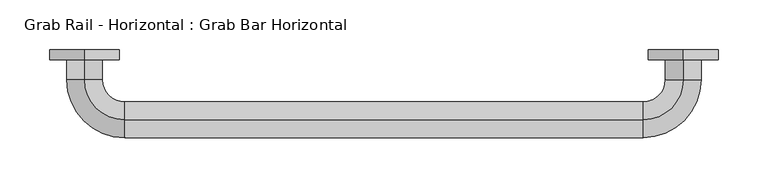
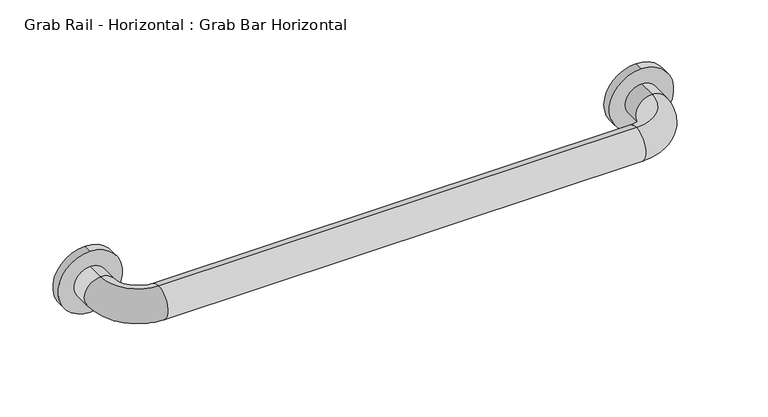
"""IFC4 building model written with IfcOpenShell, lengths in millimetres: flow terminal geometry, Grab Rail - Horizontal : Grab Bar Horizontal."""

from ifc_helpers import new_model, si_unit, point, frame, frame_2d, origin, place, context, project, spatial, circle_curve, ellipse_curve, trimmed, segment, composite_curve, outline, extrude, source, transform, mapped, element, save
from ifc_brep_helpers import plane_surface, cylinder_surface, revolved_surface, advanced_brep


def grab_rail_horizontal_grab_bar_horizontal_3488bc9b(model_context):
    return source(origin(), model_context, "Body", "SolidModel", [
        extrude(outline(composite_curve([segment(trimmed(circle_curve(frame_2d((680.0, -555.7956665)), 35.0), [point((645.0, -555.7956665))], [point((715.0, -555.7956665))], False, "CARTESIAN"), True, "CONTINUOUS"), segment(trimmed(circle_curve(frame_2d((680.0, -555.7956665)), 35.0), [point((715.0, -555.7956665))], [point((645.0, -555.7956665))], False, "CARTESIAN"), True, "CONTINUOUS")], self_intersect=False)), frame((0.0, -10.0, 0.0), z_axis=(0.0, 1.0, 0.0), x_axis=(0.0, 0.0, 1.0)), (0.0, 0.0, 1.0), 10.0),
        extrude(outline(composite_curve([segment(trimmed(circle_curve(frame_2d((680.0, -1155.7956665)), 35.0), [point((645.0, -1155.7956665))], [point((715.0, -1155.7956665))], False, "CARTESIAN"), True, "CONTINUOUS"), segment(trimmed(circle_curve(frame_2d((680.0, -1155.7956665)), 35.0), [point((715.0, -1155.7956665))], [point((645.0, -1155.7956665))], False, "CARTESIAN"), True, "CONTINUOUS")], self_intersect=False)), frame((0.0, -10.0, 0.0), z_axis=(0.0, 1.0, 0.0), x_axis=(0.0, 0.0, 1.0)), (0.0, 0.0, 1.0), 10.0),
        advanced_brep(
        [(-555.7956665, -10.0, 698.0), (-555.7956665, -10.0, 662.0), (-555.7956665, -30.0, 662.0), (-555.7956665, -30.0, 698.0), (-595.7956665, -70.0, 662.0), (-595.7956665, -70.0, 698.0), (-1115.7956665, -70.0, 662.0), (-1115.7956665, -70.0, 698.0), (-1155.7956665, -30.0, 662.0), (-1155.7956665, -30.0, 698.0), (-1155.7956665, -10.0, 698.0), (-1155.7956665, -10.0, 662.0)],
        [
            (0, 1, circle_curve(frame((-555.7956665, -10.0, 680.0), z_axis=(0.0, 1.0, 0.0), x_axis=(0.0, 0.0, -1.0)), 18.0)),
            (1, 0, circle_curve(frame((-555.7956665, -10.0, 680.0), z_axis=(0.0, 1.0, 0.0), x_axis=(0.0, 0.0, -1.0)), 18.0)),
            (1, 2),
            (2, 3, circle_curve(frame((-555.7956665, -30.0, 680.0), z_axis=(0.0, 1.0, 0.0), x_axis=(0.0, 0.0, -1.0)), 18.0)),
            (3, 0),
            (3, 2, circle_curve(frame((-555.7956665, -30.0, 680.0), z_axis=(0.0, 1.0, 0.0), x_axis=(0.0, 0.0, -1.0)), 18.0)),
            (4, 5, circle_curve(frame((-595.7956665, -70.0, 680.0), z_axis=(1.0, 0.0, 0.0), x_axis=(0.0, 0.0, -1.0)), 18.0)),
            (5, 3, circle_curve(frame((-595.7956665, -30.0, 698.0), z_axis=(0.0, 0.0, 1.0), x_axis=(1.0, 0.0, 0.0)), 40.0)),
            (2, 4, circle_curve(frame((-595.7956665, -30.0, 662.0), z_axis=(0.0, 0.0, -1.0), x_axis=(1.0, 0.0, 0.0)), 40.0)),
            (5, 4, circle_curve(frame((-595.7956665, -70.0, 680.0), z_axis=(1.0, 0.0, 0.0), x_axis=(0.0, 0.0, -1.0)), 18.0)),
            (4, 6),
            (6, 7, circle_curve(frame((-1115.7956665, -70.0, 680.0), z_axis=(1.0, 0.0, 0.0), x_axis=(0.0, 0.0, -1.0)), 18.0)),
            (7, 5),
            (7, 6, circle_curve(frame((-1115.7956665, -70.0, 680.0), z_axis=(1.0, 0.0, 0.0), x_axis=(0.0, 0.0, -1.0)), 18.0)),
            (8, 9, circle_curve(frame((-1155.7956665, -30.0, 680.0), z_axis=(0.0, -1.0, 0.0), x_axis=(0.0, 0.0, -1.0)), 18.0)),
            (9, 7, circle_curve(frame((-1115.7956665, -30.0, 698.0), z_axis=(0.0, 0.0, 1.0), x_axis=(0.0, -1.0, 0.0)), 40.0)),
            (6, 8, circle_curve(frame((-1115.7956665, -30.0, 662.0), z_axis=(0.0, 0.0, -1.0), x_axis=(0.0, -1.0, 0.0)), 40.0)),
            (9, 8, circle_curve(frame((-1155.7956665, -30.0, 680.0), z_axis=(0.0, -1.0, 0.0), x_axis=(0.0, 0.0, -1.0)), 18.0)),
            (10, 11, circle_curve(frame((-1155.7956665, -10.0, 680.0), z_axis=(0.0, 1.0, 0.0), x_axis=(0.0, 0.0, -1.0)), 18.0)),
            (11, 10, circle_curve(frame((-1155.7956665, -10.0, 680.0), z_axis=(0.0, 1.0, 0.0), x_axis=(0.0, 0.0, -1.0)), 18.0)),
            (8, 11),
            (10, 9),
        ],
        [
            plane_surface(frame((-555.7956665, -10.0, 680.0), z_axis=(0.0, 1.0, 0.0), x_axis=(0.0, 0.0, 1.0))),
            cylinder_surface(frame((-555.7956665, -10.0, 680.0), z_axis=(0.0, 1.0, 0.0), x_axis=(0.0, 0.0, -1.0)), 18.0),
            revolved_surface(trimmed(ellipse_curve(frame((-555.7956665, -30.0, 680.0), z_axis=(0.0, -1.0, 0.0), x_axis=(0.0, 0.0, -1.0)), 18.0, 18.0), [point((-555.7956665, -30.0, 698.0))], [point((-555.7956665, -30.0, 662.0))], True, "CARTESIAN"), (-595.7956665, -30.0, 680.0), (0.0, 0.0, 1.0)),
            revolved_surface(trimmed(ellipse_curve(frame((-555.7956665, -30.0, 680.0), z_axis=(0.0, -1.0, 0.0), x_axis=(0.0, 0.0, -1.0)), 18.0, 18.0), [point((-555.7956665, -30.0, 662.0))], [point((-555.7956665, -30.0, 698.0))], True, "CARTESIAN"), (-595.7956665, -30.0, 680.0), (0.0, 0.0, 1.0)),
            cylinder_surface(frame((-595.7956665, -70.0, 680.0), z_axis=(1.0, 0.0, 0.0), x_axis=(0.0, 0.0, -1.0)), 18.0),
            revolved_surface(trimmed(ellipse_curve(frame((-1115.7956665, -70.0, 680.0), z_axis=(-1.0, 0.0, 0.0), x_axis=(0.0, 0.0, -1.0)), 18.0, 18.0), [point((-1115.7956665, -70.0, 698.0))], [point((-1115.7956665, -70.0, 662.0))], True, "CARTESIAN"), (-1115.7956665, -30.0, 680.0), (0.0, 0.0, 1.0)),
            revolved_surface(trimmed(ellipse_curve(frame((-1115.7956665, -70.0, 680.0), z_axis=(-1.0, 0.0, 0.0), x_axis=(0.0, 0.0, -1.0)), 18.0, 18.0), [point((-1115.7956665, -70.0, 662.0))], [point((-1115.7956665, -70.0, 698.0))], True, "CARTESIAN"), (-1115.7956665, -30.0, 680.0), (0.0, 0.0, 1.0)),
            plane_surface(frame((-1155.7956665, -10.0, 680.0), z_axis=(0.0, 1.0, 0.0), x_axis=(0.0, 0.0, 1.0))),
            cylinder_surface(frame((-1155.7956665, -30.0, 680.0), z_axis=(0.0, -1.0, 0.0), x_axis=(0.0, 0.0, -1.0)), 18.0),
        ],
        [
            (0, [[1, 2]]),
            (1, [[3, 4, 5, -2]]),
            (1, [[-5, 6, -3, -1]]),
            (2, [[7, 8, -4, 9]]),
            (3, [[10, -9, -6, -8]]),
            (4, [[11, 12, 13, -7]]),
            (4, [[-13, 14, -11, -10]]),
            (5, [[15, 16, -12, 17]]),
            (6, [[18, -17, -14, -16]]),
            (7, [[19, 20]]),
            (8, [[21, -19, 22, -15]]),
            (8, [[-22, -20, -21, -18]]),
        ],
    ),
    ])


if __name__ == "__main__":
    model = new_model("IFC4")
    model_context = context("Model", 3, world=origin())
    ifc_project = project(units=[si_unit("LENGTHUNIT", "METRE", prefix="MILLI")], contexts=[model_context])
    site = spatial("IfcSite", under=ifc_project)
    building = spatial("IfcBuilding", under=site)
    placement = place(None, origin())
    grab_rail_horizontal_grab_bar_horizontal_shape = grab_rail_horizontal_grab_bar_horizontal_3488bc9b(model_context)
    element("IfcFlowTerminal", 1, ObjectType="Grab Rail - Horizontal : Grab Bar Horizontal", at=placement, inside=building, context=model_context, shape_type="MappedRepresentation", body=[
        mapped(grab_rail_horizontal_grab_bar_horizontal_shape, transform((0.0, 0.0, 0.0), x_axis=(1.0, 0.0, 0.0), y_axis=(0.0, 1.0, 0.0), z_axis=(0.0, 0.0, 1.0))),
    ])
    save(model, "model.ifc")
